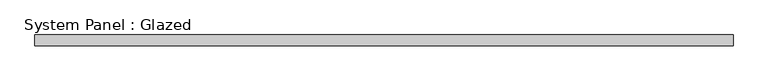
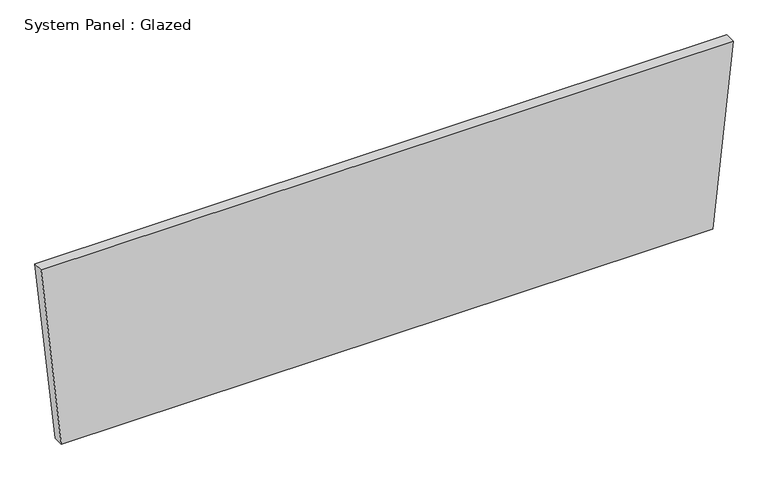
"""IFC4 building model written with IfcOpenShell, lengths in millimetres: plate geometry, System Panel : Glazed."""

from ifc_helpers import new_model, si_unit, frame, origin, place, context, project, spatial, polyline, outline, extrude, source, transform, mapped, element, save


def system_panel_glazed_c7afbf4a(model_context):
    return source(origin(), model_context, "Body", "SweptSolid", [
        extrude(outline(polyline([(0.0, -774.7275675), (0.0, 774.7275675), (455.8848707, 822.6614204), (455.8848707, -822.6614204), (0.0, -774.7275675)])), frame((0.0, 19.05, 0.0), z_axis=(0.0, 1.0, 0.0), x_axis=(0.0, 0.0, 1.0)), (0.0, 0.0, 1.0), 25.4),
    ])


if __name__ == "__main__":
    model = new_model("IFC4")
    model_context = context("Model", 3, world=origin())
    ifc_project = project(units=[si_unit("LENGTHUNIT", "METRE", prefix="MILLI")], contexts=[model_context])
    site = spatial("IfcSite", under=ifc_project)
    building = spatial("IfcBuilding", under=site)
    placement = place(None, origin())
    system_panel_glazed_shape = system_panel_glazed_c7afbf4a(model_context)
    element("IfcPlate", 1, ObjectType="System Panel : Glazed", at=placement, inside=building, context=model_context, shape_type="MappedRepresentation", body=[
        mapped(system_panel_glazed_shape, transform((0.0, 0.0, 0.0), x_axis=(1.0, 0.0, 0.0), y_axis=(0.0, 1.0, 0.0), z_axis=(0.0, 0.0, 1.0))),
    ])
    save(model, "model.ifc")
